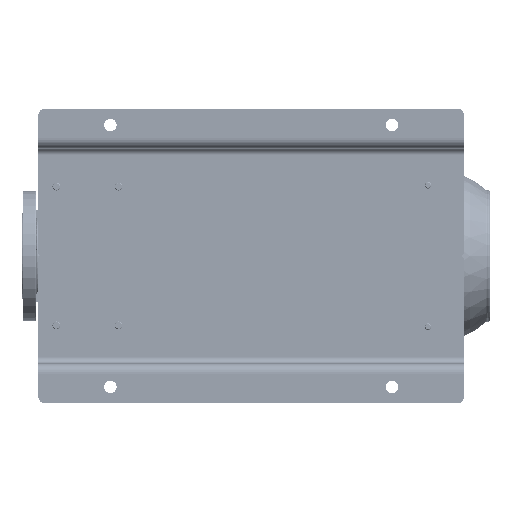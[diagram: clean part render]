
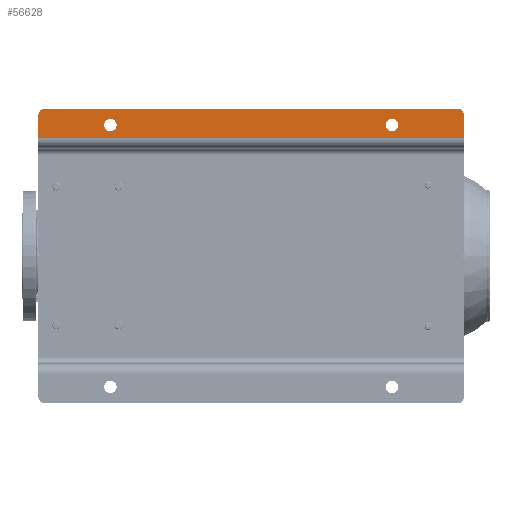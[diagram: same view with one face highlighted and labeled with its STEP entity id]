
A CAD part, front view. The second image highlights one B-rep face of the part: STEP entity #56628.
In plain terms, the highlighted planar face has unit normal (0, -1, 0).
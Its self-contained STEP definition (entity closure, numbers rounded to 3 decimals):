
#3699 = CARTESIAN_POINT ( 'NONE',  ( 425., 0., -540. ) ) ;
#5676 = CARTESIAN_POINT ( 'NONE',  ( 434.5, 0., -540. ) ) ;
#7009 = AXIS2_PLACEMENT_3D ( 'NONE', #94571, #66114, #14220 ) ;
#11008 = DIRECTION ( 'NONE',  ( 0., -1., 0. ) ) ;
#11010 = CARTESIAN_POINT ( 'NONE',  ( 405., 0., 0. ) ) ;
#12234 = EDGE_LOOP ( 'NONE', ( #28039, #102070 ) ) ;
#12416 = ORIENTED_EDGE ( 'NONE', *, *, #93525, .T. ) ;
#12429 = VERTEX_POINT ( 'NONE', #63503 ) ;
#12837 = CIRCLE ( 'NONE', #109492, 9.5 ) ;
#14220 = DIRECTION ( 'NONE',  ( 0., 0., -1. ) ) ;
#15592 = VECTOR ( 'NONE', #20958, 1000. ) ;
#16127 = DIRECTION ( 'NONE',  ( 0., 1., 0. ) ) ;
#16797 = CARTESIAN_POINT ( 'NONE',  ( 450., 0., -640. ) ) ;
#20194 = VERTEX_POINT ( 'NONE', #108863 ) ;
#20264 = VERTEX_POINT ( 'NONE', #86308 ) ;
#20958 = DIRECTION ( 'NONE',  ( 1., 0., 0. ) ) ;
#23508 = VERTEX_POINT ( 'NONE', #120268 ) ;
#24812 = AXIS2_PLACEMENT_3D ( 'NONE', #126302, #140971, #75292 ) ;
#27027 = CIRCLE ( 'NONE', #106998, 9.5 ) ;
#28039 = ORIENTED_EDGE ( 'NONE', *, *, #59972, .T. ) ;
#31326 = CARTESIAN_POINT ( 'NONE',  ( 450., 0., -10. ) ) ;
#36390 = FACE_BOUND ( 'NONE', #37703, .T. ) ;
#37089 = ORIENTED_EDGE ( 'NONE', *, *, #74111, .F. ) ;
#37703 = EDGE_LOOP ( 'NONE', ( #107765, #160398 ) ) ;
#38339 = VECTOR ( 'NONE', #83688, 1000. ) ;
#41660 = DIRECTION ( 'NONE',  ( 0., 0., 1. ) ) ;
#45737 = CARTESIAN_POINT ( 'NONE',  ( 425., 0., -110. ) ) ;
#47988 = LINE ( 'NONE', #137906, #119040 ) ;
#48534 = EDGE_CURVE ( 'NONE', #135088, #23508, #95372, .T. ) ;
#48674 = VERTEX_POINT ( 'NONE', #16797 ) ;
#49078 = EDGE_CURVE ( 'NONE', #48674, #94899, #107355, .T. ) ;
#49264 = EDGE_CURVE ( 'NONE', #94899, #20194, #156215, .T. ) ;
#56628 = ADVANCED_FACE ( 'NONE', ( #36390, #114192, #100347 ), #128848, .T. ) ;
#59842 = LINE ( 'NONE', #139354, #15592 ) ;
#59972 = EDGE_CURVE ( 'NONE', #23508, #135088, #27027, .T. ) ;
#60987 = DIRECTION ( 'NONE',  ( 0., 0., -1. ) ) ;
#63503 = CARTESIAN_POINT ( 'NONE',  ( 405., 0., -650. ) ) ;
#65154 = AXIS2_PLACEMENT_3D ( 'NONE', #162629, #96926, #149643 ) ;
#65451 = CARTESIAN_POINT ( 'NONE',  ( 440., 0., -650. ) ) ;
#66114 = DIRECTION ( 'NONE',  ( 0., 1., 0. ) ) ;
#68170 = CARTESIAN_POINT ( 'NONE',  ( 389., 0., -650. ) ) ;
#71074 = ORIENTED_EDGE ( 'NONE', *, *, #49078, .T. ) ;
#74111 = EDGE_CURVE ( 'NONE', #98628, #20194, #59842, .T. ) ;
#75292 = DIRECTION ( 'NONE',  ( 0., 0., -1. ) ) ;
#75957 = CIRCLE ( 'NONE', #153293, 10. ) ;
#77561 = DIRECTION ( 'NONE',  ( 0., 0., -1. ) ) ;
#83688 = DIRECTION ( 'NONE',  ( 1., 0., 0. ) ) ;
#83927 = EDGE_LOOP ( 'NONE', ( #37089, #122041, #12416, #134160, #71074, #136270 ) ) ;
#86258 = EDGE_CURVE ( 'NONE', #144673, #20264, #12837, .T. ) ;
#86308 = CARTESIAN_POINT ( 'NONE',  ( 415.5, 0., -110. ) ) ;
#93525 = EDGE_CURVE ( 'NONE', #12429, #110157, #97478, .T. ) ;
#94571 = CARTESIAN_POINT ( 'NONE',  ( 425., 0., -540. ) ) ;
#94899 = VERTEX_POINT ( 'NONE', #31326 ) ;
#95372 = CIRCLE ( 'NONE', #7009, 9.5 ) ;
#96926 = DIRECTION ( 'NONE',  ( 0., -1., 0. ) ) ;
#97478 = LINE ( 'NONE', #68170, #38339 ) ;
#98446 = DIRECTION ( 'NONE',  ( 0., 1., 0. ) ) ;
#98628 = VERTEX_POINT ( 'NONE', #11010 ) ;
#100347 = FACE_OUTER_BOUND ( 'NONE', #83927, .T. ) ;
#102070 = ORIENTED_EDGE ( 'NONE', *, *, #48534, .T. ) ;
#103755 = VECTOR ( 'NONE', #41660, 1000. ) ;
#106248 = EDGE_CURVE ( 'NONE', #110157, #48674, #75957, .T. ) ;
#106343 = EDGE_CURVE ( 'NONE', #20264, #144673, #161573, .T. ) ;
#106998 = AXIS2_PLACEMENT_3D ( 'NONE', #3699, #148063, #149748 ) ;
#107355 = LINE ( 'NONE', #160074, #103755 ) ;
#107765 = ORIENTED_EDGE ( 'NONE', *, *, #106343, .T. ) ;
#108863 = CARTESIAN_POINT ( 'NONE',  ( 440., 0., 0. ) ) ;
#109492 = AXIS2_PLACEMENT_3D ( 'NONE', #45737, #98446, #151186 ) ;
#110157 = VERTEX_POINT ( 'NONE', #65451 ) ;
#114192 = FACE_BOUND ( 'NONE', #12234, .T. ) ;
#119040 = VECTOR ( 'NONE', #60987, 1000. ) ;
#120268 = CARTESIAN_POINT ( 'NONE',  ( 415.5, 0., -540. ) ) ;
#122041 = ORIENTED_EDGE ( 'NONE', *, *, #124352, .T. ) ;
#124352 = EDGE_CURVE ( 'NONE', #98628, #12429, #47988, .T. ) ;
#124816 = CARTESIAN_POINT ( 'NONE',  ( 434.5, 0., -110. ) ) ;
#126302 = CARTESIAN_POINT ( 'NONE',  ( 389., 0., -650. ) ) ;
#128848 = PLANE ( 'NONE',  #24812 ) ;
#134160 = ORIENTED_EDGE ( 'NONE', *, *, #106248, .T. ) ;
#134540 = CARTESIAN_POINT ( 'NONE',  ( 425., 0., -110. ) ) ;
#135088 = VERTEX_POINT ( 'NONE', #5676 ) ;
#136270 = ORIENTED_EDGE ( 'NONE', *, *, #49264, .T. ) ;
#137906 = CARTESIAN_POINT ( 'NONE',  ( 405., 0., -650. ) ) ;
#139354 = CARTESIAN_POINT ( 'NONE',  ( 389., 0., 0. ) ) ;
#140971 = DIRECTION ( 'NONE',  ( 0., -1., 0. ) ) ;
#142204 = AXIS2_PLACEMENT_3D ( 'NONE', #134540, #16127, #149197 ) ;
#144673 = VERTEX_POINT ( 'NONE', #124816 ) ;
#148063 = DIRECTION ( 'NONE',  ( 0., 1., 0. ) ) ;
#149197 = DIRECTION ( 'NONE',  ( 0., 0., -1. ) ) ;
#149643 = DIRECTION ( 'NONE',  ( 0., 0., -1. ) ) ;
#149748 = DIRECTION ( 'NONE',  ( 0., 0., -1. ) ) ;
#151186 = DIRECTION ( 'NONE',  ( 0., 0., -1. ) ) ;
#153293 = AXIS2_PLACEMENT_3D ( 'NONE', #170877, #11008, #77561 ) ;
#156215 = CIRCLE ( 'NONE', #65154, 10. ) ;
#160074 = CARTESIAN_POINT ( 'NONE',  ( 450., 0., -650. ) ) ;
#160398 = ORIENTED_EDGE ( 'NONE', *, *, #86258, .T. ) ;
#161573 = CIRCLE ( 'NONE', #142204, 9.5 ) ;
#162629 = CARTESIAN_POINT ( 'NONE',  ( 440., 0., -10. ) ) ;
#170877 = CARTESIAN_POINT ( 'NONE',  ( 440., 0., -640. ) ) ;
